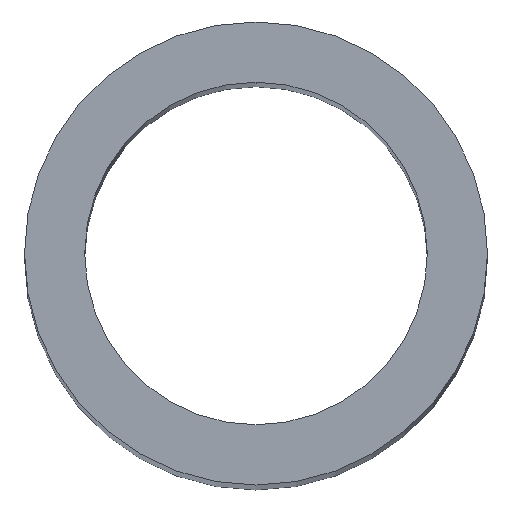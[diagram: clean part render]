
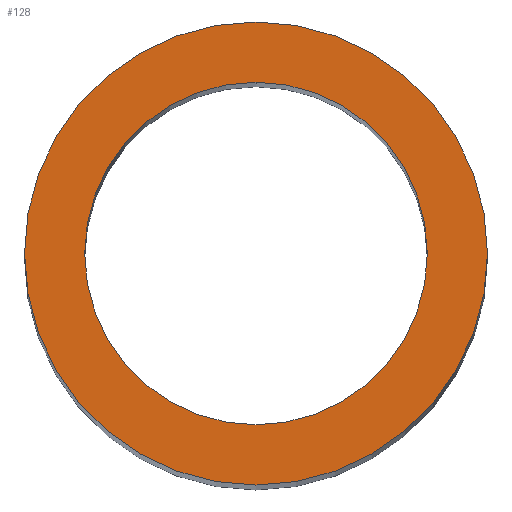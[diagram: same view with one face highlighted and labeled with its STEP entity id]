
A CAD part, top view. The second image highlights one B-rep face of the part: STEP entity #128.
In plain terms, the highlighted planar face has unit normal (0, 0, 1).
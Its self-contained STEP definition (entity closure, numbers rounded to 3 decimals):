
#9 = DIRECTION ( 'NONE',  ( 0., 1., 0. ) ) ;
#11 = DIRECTION ( 'NONE',  ( -1., 0., 0. ) ) ;
#23 = DIRECTION ( 'NONE',  ( 0., 0., -1. ) ) ;
#24 = CARTESIAN_POINT ( 'NONE',  ( 0., 0., 0. ) ) ;
#25 = AXIS2_PLACEMENT_3D ( 'NONE', #24, #23, #9 ) ;
#26 = CIRCLE ( 'NONE', #25, 12.058 ) ;
#27 = CARTESIAN_POINT ( 'NONE',  ( 0., 12.058, 0. ) ) ;
#28 = CARTESIAN_POINT ( 'NONE',  ( 0., -12.058, 0. ) ) ;
#44 = DIRECTION ( 'NONE',  ( 0., 1., 0. ) ) ;
#45 = DIRECTION ( 'NONE',  ( 0., 0., -1. ) ) ;
#46 = CARTESIAN_POINT ( 'NONE',  ( 0., 0., 0. ) ) ;
#47 = AXIS2_PLACEMENT_3D ( 'NONE', #46, #45, #44 ) ;
#48 = CIRCLE ( 'NONE', #47, 12.058 ) ;
#50 = DIRECTION ( 'NONE',  ( 0., 0., 1. ) ) ;
#51 = CARTESIAN_POINT ( 'NONE',  ( 0., 0., 0. ) ) ;
#52 = CIRCLE ( 'NONE', #60, 16.3 ) ;
#53 = PLANE ( 'NONE',  #56 ) ;
#54 = DIRECTION ( 'NONE',  ( 0., 0., -1. ) ) ;
#55 = CARTESIAN_POINT ( 'NONE',  ( 0., 16.3, 0. ) ) ;
#56 = AXIS2_PLACEMENT_3D ( 'NONE', #55, #54, #11 ) ;
#57 = FACE_OUTER_BOUND ( 'NONE', #80, .T. ) ;
#58 = FACE_BOUND ( 'NONE', #129, .T. ) ;
#59 = DIRECTION ( 'NONE',  ( 1., 0., 0. ) ) ;
#60 = AXIS2_PLACEMENT_3D ( 'NONE', #51, #50, #59 ) ;
#80 = EDGE_LOOP ( 'NONE', ( #81, #82 ) ) ;
#81 = ORIENTED_EDGE ( 'NONE', *, *, #85, .T. ) ;
#82 = ORIENTED_EDGE ( 'NONE', *, *, #127, .T. ) ;
#84 = VERTEX_POINT ( 'NONE', #398 ) ;
#85 = EDGE_CURVE ( 'NONE', #84, #141, #372, .T. ) ;
#102 = VERTEX_POINT ( 'NONE', #27 ) ;
#106 = VERTEX_POINT ( 'NONE', #28 ) ;
#107 = EDGE_CURVE ( 'NONE', #106, #102, #26, .T. ) ;
#122 = EDGE_CURVE ( 'NONE', #102, #106, #48, .T. ) ;
#127 = EDGE_CURVE ( 'NONE', #141, #84, #52, .T. ) ;
#128 = ADVANCED_FACE ( 'NONE', ( #58, #57 ), #53, .F. ) ;
#129 = EDGE_LOOP ( 'NONE', ( #130, #131 ) ) ;
#130 = ORIENTED_EDGE ( 'NONE', *, *, #122, .T. ) ;
#131 = ORIENTED_EDGE ( 'NONE', *, *, #107, .T. ) ;
#141 = VERTEX_POINT ( 'NONE', #202 ) ;
#202 = CARTESIAN_POINT ( 'NONE',  ( -16.3, 0., 0. ) ) ;
#372 = CIRCLE ( 'NONE', #418, 16.3 ) ;
#398 = CARTESIAN_POINT ( 'NONE',  ( 16.3, 0., 0. ) ) ;
#406 = DIRECTION ( 'NONE',  ( 0., 0., 1. ) ) ;
#407 = CARTESIAN_POINT ( 'NONE',  ( 0., 0., 0. ) ) ;
#414 = DIRECTION ( 'NONE',  ( 1., 0., 0. ) ) ;
#418 = AXIS2_PLACEMENT_3D ( 'NONE', #407, #406, #414 ) ;
